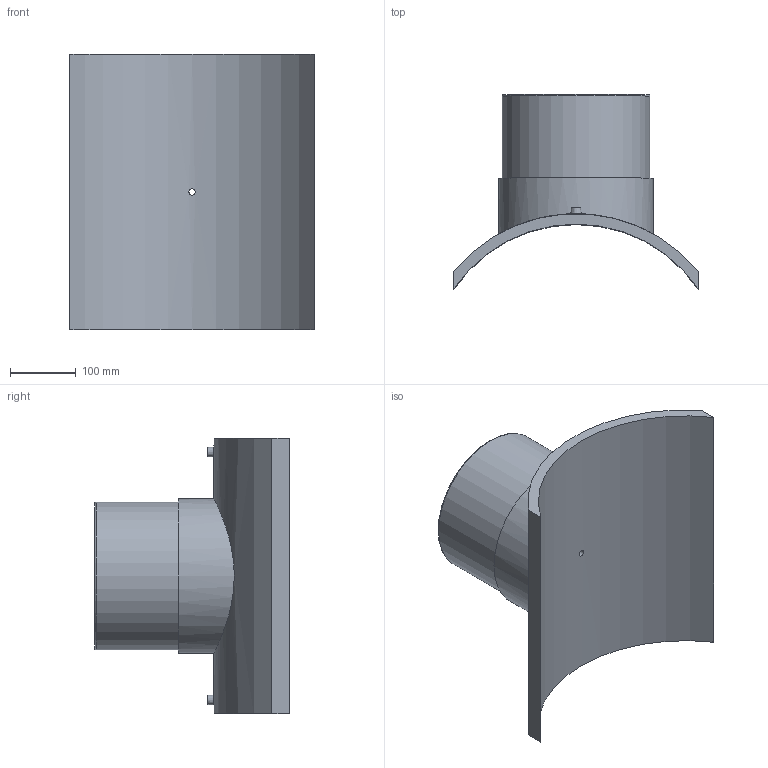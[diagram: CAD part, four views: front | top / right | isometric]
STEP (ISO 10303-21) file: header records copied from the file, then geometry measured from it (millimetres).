
FILE_DESCRIPTION(/* description */ ('PLASSON BRANCH SADDLE 400-450x225'),/* implementation_level */ '2;1');
FILE_NAME(/* name */ 'C:\Dropbox\KIMPROJECTS-Inventor 2019\99-16-3568-Processing\ElectroFusion Fittings\495803\stp\495803450225TN.stp',/* time_stamp */ '2024-04-04T11:51:29+02:00',/* author */ ('KIM'),/* organization */ (''),/* preprocessor_version */ 'ST-DEVELOPER v17.2',/* originating_system */ 'Autodesk Inventor 2019',/* authorisation */ '');
FILE_SCHEMA (('AUTOMOTIVE_DESIGN { 1 0 10303 214 3 1 1 }'));
Length unit declared in the file: millimetre
Products named in the file (1): 495803450225TN
Bounding box: 373 x 297.13 x 420 mm (x, y, z)
Volume: 5964525.8 mm3; surface area: 657244.2 mm2
Topology: 1 solids, 1 shells, 29 faces, 60 edges, 43 vertices
Faces by surface type: plane 13, cylinder 12, torus 2, cone 2
Full cylindrical faces by diameter (mm): 4 x2, 9.6 x1, 10 x2, 16 x1, 180 x1, 225 x1, 236.25 x1
Entity records: 1086 total; most frequent: CARTESIAN_POINT 400, DIRECTION 139, ORIENTED_EDGE 120, EDGE_CURVE 60, AXIS2_PLACEMENT_3D 60, VERTEX_POINT 43, EDGE_LOOP 41, CIRCLE 30
